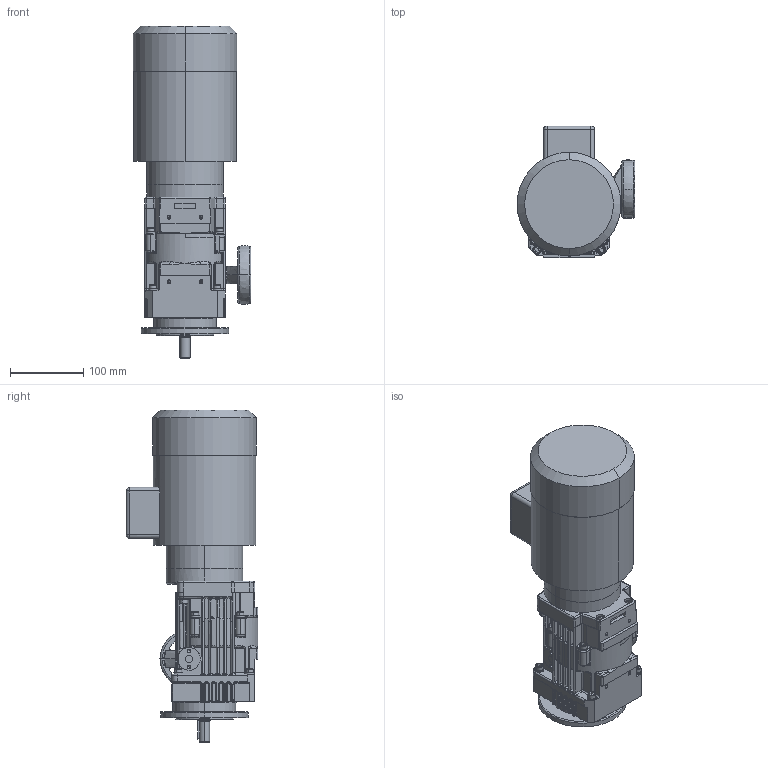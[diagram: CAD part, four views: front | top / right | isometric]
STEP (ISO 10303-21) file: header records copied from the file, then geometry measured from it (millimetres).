
FILE_DESCRIPTION(('CoCreate Modeling STEP Export'),'2;1');
FILE_NAME('R41_B5_HV_Motor_2D_3D.stp','2008-12-02T12:49:55',(''),(''),'CoCreate Modeling STEP processor for AP214 (Solid Model)','CoCreate Modeling 16.00A 16-Aug-2008 (C) Parametric Technology GmbH','');
FILE_SCHEMA(('AUTOMOTIVE_DESIGN { 1 0 10303 214 1 1 1 1 }'));
Products named in the file (3): R41_B5_HV_Motor_2D_3D_1; Motor_71_0_37_4_b14; R41_B5_HV_Motor_2D_3D
Assembly tree (2 placements, depth 2):
  R41_B5_HV_Motor_2D_3D
    Motor_71_0_37_4_b14
    R41_B5_HV_Motor_2D_3D_1
Bounding box: 161.01 x 180 x 454 mm (x, y, z)
Volume: 4985980.5 mm3; surface area: 364785.3 mm2
Topology: 2 solids, 3 shells, 1722 faces, 4231 edges, 2563 vertices
Faces by surface type: cylinder 671, plane 581, torus 165, cone 123, bspline 118, extrusion 44, sphere 20
Entity records: 73593 total; most frequent: CARTESIAN_POINT 37146, ORIENTED_EDGE 8298, DIRECTION 6606, EDGE_CURVE 4148, VERTEX_POINT 2562, AXIS2_PLACEMENT_3D 2340, VECTOR 1926, LINE 1882
